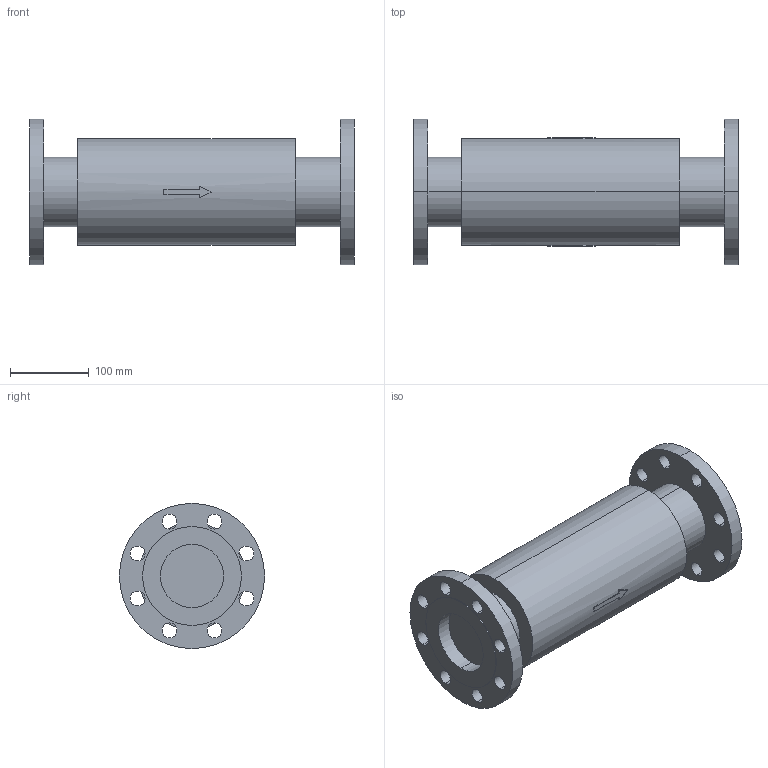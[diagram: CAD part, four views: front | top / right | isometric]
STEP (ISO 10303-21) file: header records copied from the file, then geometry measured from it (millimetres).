
FILE_DESCRIPTION( (''), '2;1');
FILE_NAME ('PC1276.11140.EB-1J 80A_858.stp','2025-06-09T15:35:16',(''),(''),'spGate 20.6.3 (****-****-****-****)','','');
FILE_SCHEMA (('AUTOMOTIVE_DESIGN'));
Length unit declared in the file: millimetre
Bounding box: 415 x 185 x 185 mm (x, y, z)
Volume: 5348725 mm3; surface area: 297384.4 mm2
Topology: 1 solids, 1 shells, 76 faces, 194 edges, 130 vertices
Faces by surface type: cylinder 50, plane 26
Entity records: 3917 total; most frequent: CARTESIAN_POINT 458, DIRECTION 400, ORIENTED_EDGE 388, COLOUR_RGB 271, PRESENTATION_STYLE_ASSIGNMENT 271, STYLED_ITEM 271, EDGE_CURVE 194, DRAUGHTING_PRE_DEFINED_CURVE_FONT 194
